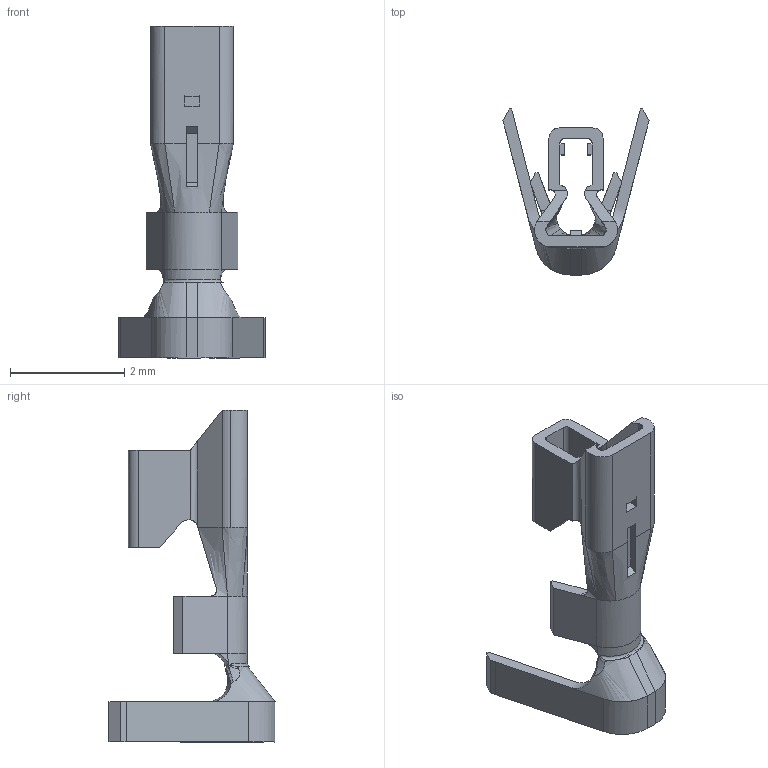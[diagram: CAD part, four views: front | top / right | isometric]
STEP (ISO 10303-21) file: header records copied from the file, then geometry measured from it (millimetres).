
FILE_DESCRIPTION (( 'STEP AP203' ), '1' );
FILE_NAME ('4172-PIN-T-10K-1110310.STEP', '2022-03-11T05:22:49', ( '' ), ( '' ), 'SwSTEP 2.0', 'SolidWorks 2019', '' );
FILE_SCHEMA (( 'CONFIG_CONTROL_DESIGN' ));
Length unit declared in the file: millimetre
Products named in the file (1): 4172-PIN-T-10K-1110310
Bounding box: 2.55 x 2.9 x 5.8 mm (x, y, z)
Volume: 4.1 mm3; surface area: 52.9 mm2
Topology: 6 solids, 6 shells, 185 faces, 494 edges, 320 vertices
Faces by surface type: plane 114, cylinder 36, bspline 34, torus 1
Entity records: 7990 total; most frequent: CARTESIAN_POINT 3767, ORIENTED_EDGE 988, DIRECTION 636, EDGE_CURVE 494, VERTEX_POINT 320, VECTOR 294, LINE 294, EDGE_LOOP 188
